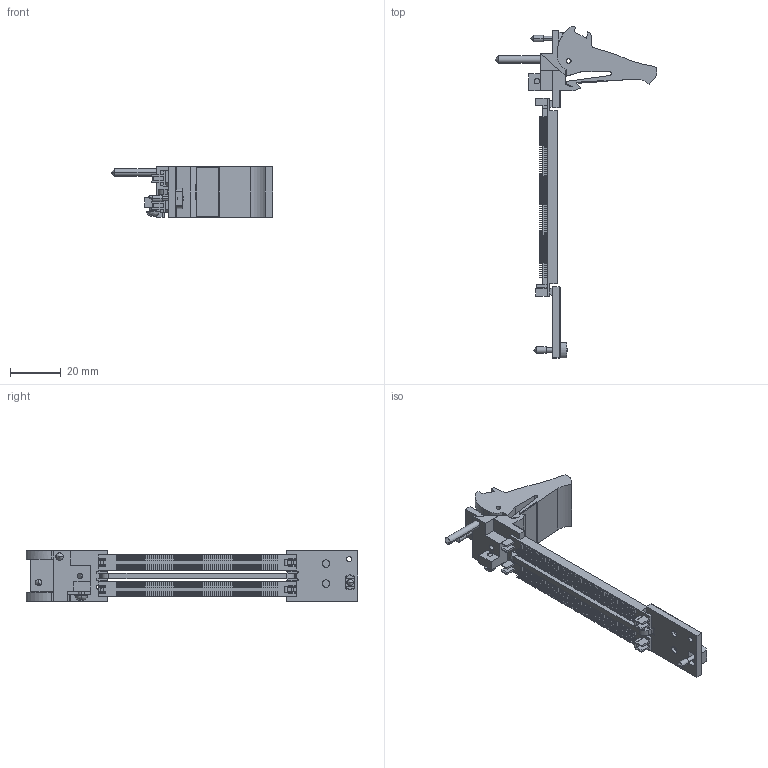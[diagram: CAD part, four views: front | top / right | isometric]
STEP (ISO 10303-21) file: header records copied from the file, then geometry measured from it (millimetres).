
FILE_DESCRIPTION((''),'2;1');
FILE_NAME('CU_PXI-2532','2009-09-01T',('jjorden'),(''),'PRO/ENGINEER BY PARAMETRIC TECHNOLOGY CORPORATION, 2006080','PRO/ENGINEER BY PARAMETRIC TECHNOLOGY CORPORATION, 2006080','');
FILE_SCHEMA(('CONFIG_CONTROL_DESIGN'));
Products named in the file (1): CU_PXI-2532
Bounding box: 63.53 x 130.51 x 20.02 mm (x, y, z)
Volume: 13864.2 mm3; surface area: 16097.6 mm2
Topology: 3 solids, 3 shells, 2708 faces, 6985 edges, 4614 vertices
Faces by surface type: plane 2591, cylinder 79, cone 18, sphere 8, torus 6, bspline 6
Entity records: 81210 total; most frequent: CARTESIAN_POINT 14815, ORIENTED_EDGE 13954, DIRECTION 12594, EDGE_CURVE 6977, VECTOR 6702, LINE 6702, VERTEX_POINT 4633, EDGE_LOOP 3073
